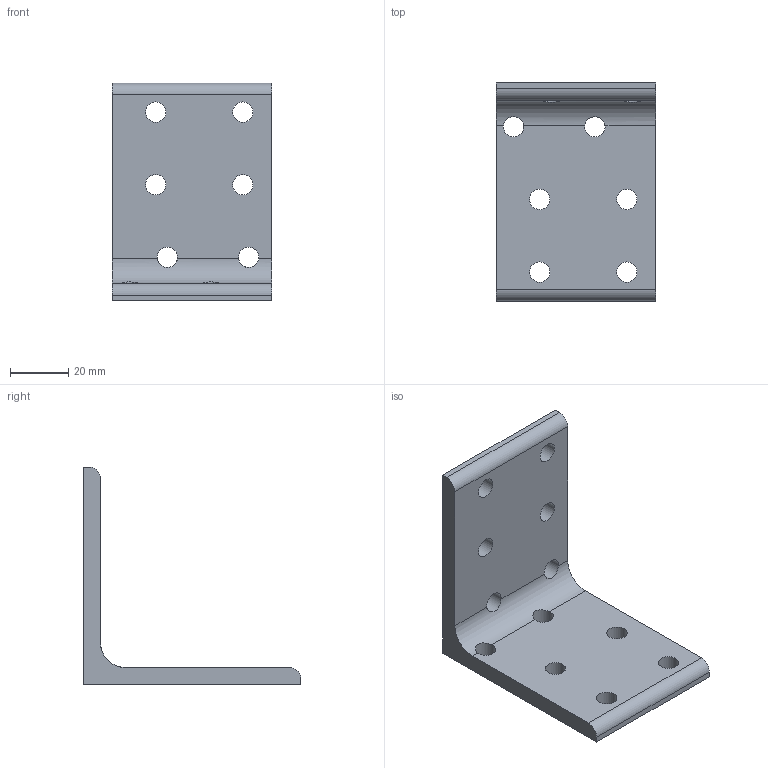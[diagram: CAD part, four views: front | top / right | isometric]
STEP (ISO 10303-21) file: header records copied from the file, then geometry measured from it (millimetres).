
FILE_DESCRIPTION(/* description */ ('Unknown'),/* implementation_level */ '2;1');
FILE_NAME(/* name */ 'TL5575',/* time_stamp */ '2026-09-29T13:55:43+08:00',/* author */ ('Unknown'),/* organization */ ('Unknown'),/* preprocessor_version */ 'ST-DEVELOPER v16.7',/* originating_system */ 'DEX',/* authorisation */ $);
FILE_SCHEMA (('AUTOMOTIVE_DESIGN {1 0 10303 214 3 1 1}'));
Length unit declared in the file: millimetre
Products named in the file (1): TL5575
Bounding box: 55 x 75 x 75 mm (x, y, z)
Volume: 45215.6 mm3; surface area: 18525.5 mm2
Topology: 1 solids, 1 shells, 23 faces, 83 edges, 58 vertices
Faces by surface type: cylinder 15, plane 8
Full cylindrical faces by diameter (mm): 7 x12
Entity records: 837 total; most frequent: CARTESIAN_POINT 153, DIRECTION 133, ORIENTED_EDGE 118, EDGE_CURVE 59, EDGE_LOOP 55, FACE_BOUND 55, AXIS2_PLACEMENT_3D 54, VERTEX_POINT 46
